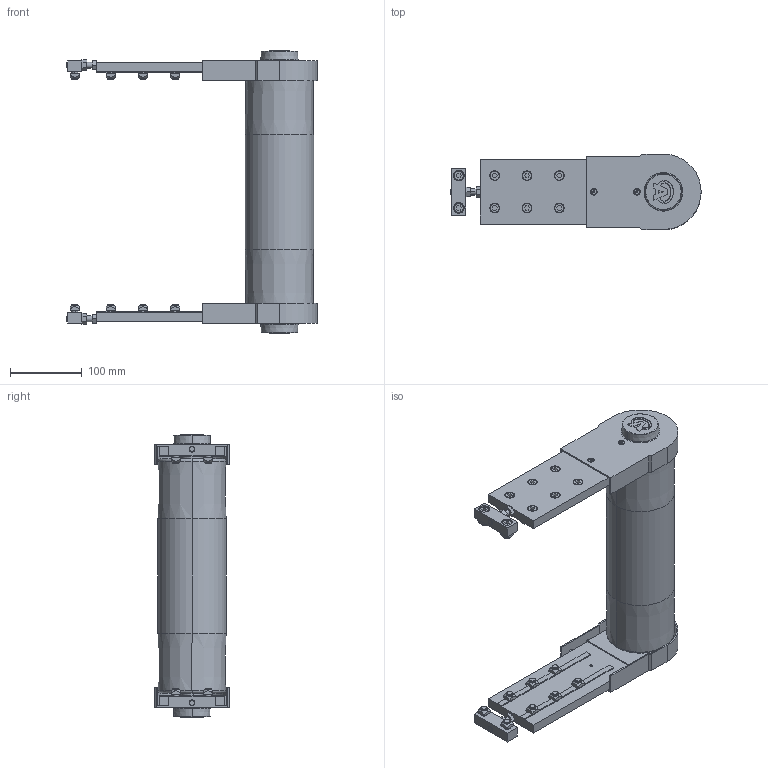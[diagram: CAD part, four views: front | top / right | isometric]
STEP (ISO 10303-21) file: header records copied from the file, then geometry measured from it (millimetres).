
FILE_DESCRIPTION (( 'STEP AP203' ), '1' );
FILE_NAME ('084.095.KI.300.STEP', '2013-05-28T06:11:17', ( '' ), ( '' ), 'SwSTEP 2.0', 'SolidWorks 2011', '' );
FILE_SCHEMA (( 'CONFIG_CONTROL_DESIGN' ));
Length unit declared in the file: millimetre
Products named in the file (12): 084.095.KI.300; ISO 10642 - M4 x 12 --- 12S_ISO 10642 - M4 x 12 --- 12S; Circlip DIN 471 - 30 x 1.5_Circlip DIN 471 - 30 x 1.5; 084.803.003; 084.802.019_084.802.019; 084.810.003; 084.808.002_084.808.002; 084.812.003; 084.816.102_084.816.107<A macchina>; 084.302.000 DADI ALUSIC 13x13_084.302.004; 084.301.000 VITI ALUSIC_084.301.003; 084.803.005-1
Assembly tree (51 placements, depth 2):
  084.095.KI.300
    084.302.000 DADI ALUSIC 13x13_084.302.004  x16
    084.301.000 VITI ALUSIC_084.301.003  x16
    ISO 10642 - M4 x 12 --- 12S_ISO 10642 - M4 x 12 --- 12S  x4
    084.808.002_084.808.002  x2
    084.803.005-1  x2
    Circlip DIN 471 - 30 x 1.5_Circlip DIN 471 - 30 x 1.5  x2
    084.802.019_084.802.019  x2
    084.812.003  x2
    084.816.102_084.816.107<A macchina>
    084.810.003  x2
    084.803.003  x2
Bounding box: 348.5 x 105 x 393 mm (x, y, z)
Volume: 1657896.2 mm3; surface area: 692565.4 mm2
Topology: 57 solids, 59 shells, 1830 faces, 4672 edges, 3018 vertices
Faces by surface type: plane 947, cylinder 471, cone 280, torus 124, sphere 8
Entity records: 23496 total; most frequent: CARTESIAN_POINT 3896, DIRECTION 3774, ORIENTED_EDGE 3512, EDGE_CURVE 1756, AXIS2_PLACEMENT_3D 1325, VERTEX_POINT 1147, LINE 1124, VECTOR 1124
